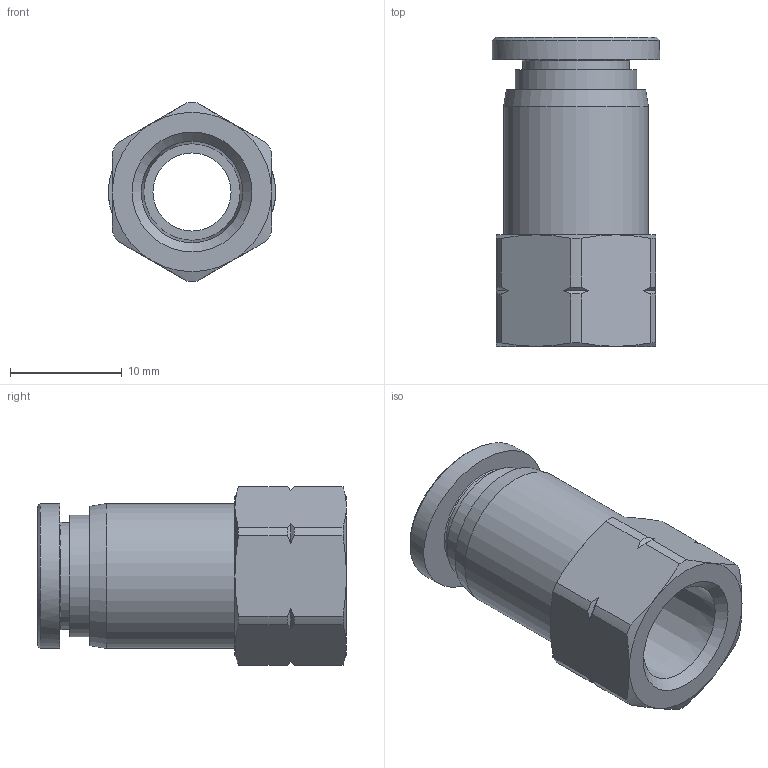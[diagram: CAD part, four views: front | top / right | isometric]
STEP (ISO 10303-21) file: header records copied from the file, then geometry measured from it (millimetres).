
FILE_DESCRIPTION((''),'2;1');
FILE_NAME('C:\Users\user0117\Desktop\김진일\G-FITTING INCH\5-16\카탈로그\G-FITTING INCH (STEP)\GPCF 5_16-N01U.stp','2020-04-13T15:48:13',('user0117'),(''),'Autodesk Inventor 2013','Autodesk Inventor 2013','');
FILE_SCHEMA(('AUTOMOTIVE_DESIGN { 1 0 10303 214 1 1 1 1 }'));
Length unit declared in the file: millimetre
Products named in the file (5): GPCF 5_16-N01U; GPCF BODY 5_16-N01U(BRASS); G-COLLAR 5-16C; COLLAR G08C; SLEEVE G08
Assembly tree (4 placements, depth 3):
  GPCF 5_16-N01U
    GPCF BODY 5_16-N01U(BRASS)
    G-COLLAR 5-16C
      COLLAR G08C
      SLEEVE G08
Bounding box: 14.99 x 27.7 x 16 mm (x, y, z)
Volume: 2467.5 mm3; surface area: 2443.1 mm2
Topology: 3 solids, 3 shells, 423 faces, 1178 edges, 781 vertices
Faces by surface type: plane 349, cone 29, cylinder 25, bspline 20
Full cylindrical faces by diameter (mm): 7 x1, 8.2 x3, 9.6 x1, 10.9 x1, 13 x1
Entity records: 13708 total; most frequent: CARTESIAN_POINT 2885, ORIENTED_EDGE 2322, DIRECTION 2045, EDGE_CURVE 1161, VECTOR 999, LINE 999, VERTEX_POINT 777, AXIS2_PLACEMENT_3D 523
